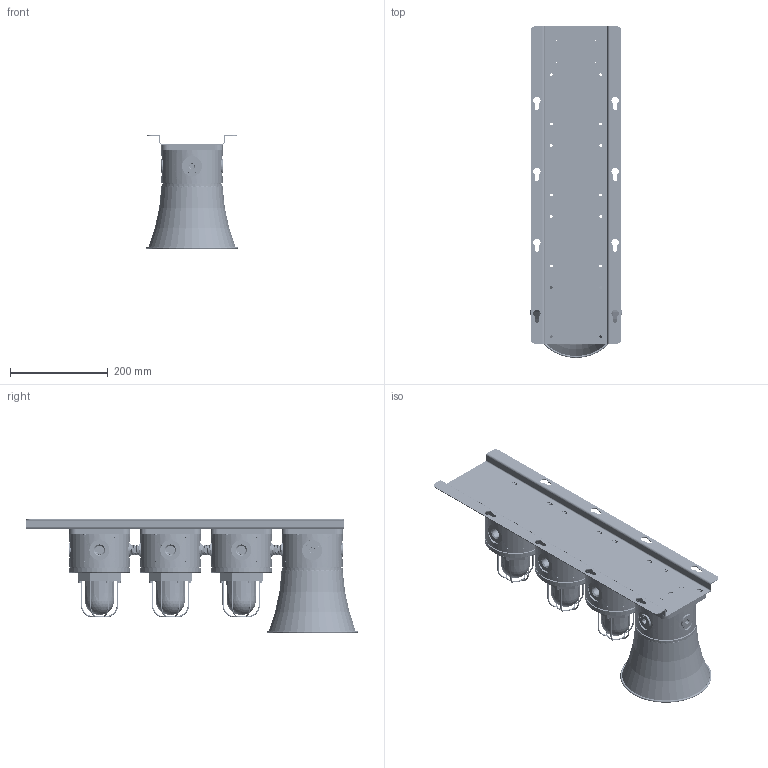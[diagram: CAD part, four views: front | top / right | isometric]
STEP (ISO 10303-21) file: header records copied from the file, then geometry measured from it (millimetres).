
FILE_DESCRIPTION((''),'2;1');
FILE_NAME('0-SB125-TYP4_ASM','2015-12-21T',('Administrator'),(''),'PRO/ENGINEER BY PARAMETRIC TECHNOLOGY CORPORATION, 2008090','PRO/ENGINEER BY PARAMETRIC TECHNOLOGY CORPORATION, 2008090','');
FILE_SCHEMA(('CONFIG_CONTROL_DESIGN'));
Length unit declared in the file: millimetre
Products named in the file (46): 50020110262; 55060110101; 55060110102; 50060110110; 50060110109; 55060170107; 50060111202; 55060110108; 50060111201; GTS5; 50000010301-M5; M4-10; 50050180237; 50060100612; 50060120205; TERMINAL-WDML; TERMIAL-BASE_ASM; 55100110920; 0-BC125_ASM; 55020110203; LINE-9; 51872010006; 50020110207; 0-CT20_ASM; 50000010101; 50020110229; 55050110103; 50050140504; 50050150505; CG; HS; 50050150506; MQ; 50050150501; 55050110108; 50050110507; 0-55050100620_ASM; 50050110106; 50050110105; 50050110104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
Assembly tree (78 placements, depth 4):
  0-SB125-TYP4_ASM
    50020110262
    0-BC125_ASM  x4
      55060110101
      55060110102
      50060110110
      50060110109
      55060170107
      50060111202
      55060110108
      50060111201
      GTS5
      50000010301-M5
      M4-10
      50050180237
      50060100612
      TERMIAL-BASE_ASM
        50060120205
        TERMINAL-WDML
      55100110920
    0-CT20_ASM  x3
      55020110203
      LINE-9
      51872010006
      50020110207
    50000010101
    50020110229
    0-SD125-SOUNDER-W_ASM
      55060110101
      55050110103
      50050180237
      0-55050100620_ASM
        50050140504
        50050150505
        CG
        HS
        50050150506
        MQ
        50050150501
        55050110108
        50050110507
      50050110106
      50050110105
      M4-10  x3
      50050110104
      50050110216  x4
      55100110920  x3
      PCB-SD125-W_ASM
        50070150601
        50070120605
Bounding box: 187 x 678.5 x 233.8 mm (x, y, z)
Volume: 4145439.6 mm3; surface area: 2052096.4 mm2
Topology: 208 solids, 439 shells, 27773 faces, 74787 edges, 48924 vertices
Faces by surface type: plane 20712, cylinder 3700, cone 1250, bspline 1003, sphere 598, torus 510
Entity records: 163642 total; most frequent: CARTESIAN_POINT 52476, ORIENTED_EDGE 23212, DIRECTION 22045, EDGE_CURVE 11715, VECTOR 7859, LINE 7859, VERTEX_POINT 7621, AXIS2_PLACEMENT_3D 7093
